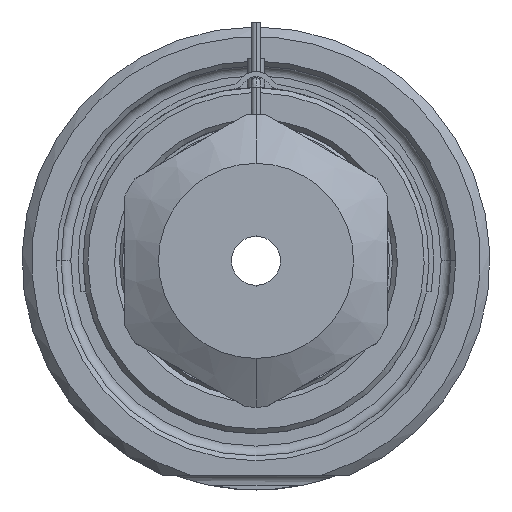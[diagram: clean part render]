
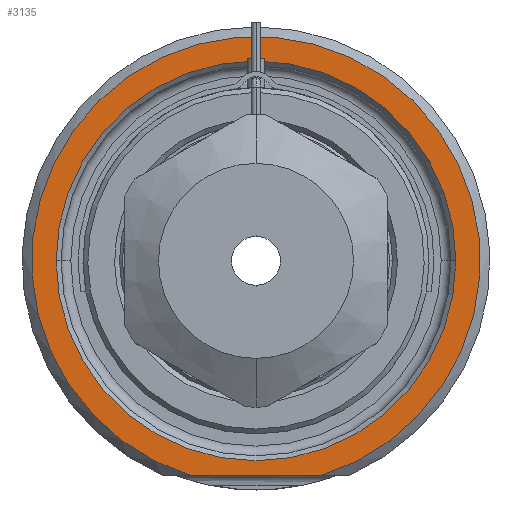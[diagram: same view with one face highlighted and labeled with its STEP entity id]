
A CAD part, front view. The second image highlights one B-rep face of the part: STEP entity #3135.
In plain terms, the highlighted planar face has unit normal (0, -1, 0).
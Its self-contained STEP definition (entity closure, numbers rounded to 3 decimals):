
#1=DIRECTION('',(1.,0.,0.));
#2=VECTOR('',#1,13.416);
#3=CARTESIAN_POINT('',(-6.708,0.,-22.));
#4=LINE('',#3,#2);
#5=CARTESIAN_POINT('',(0.,0.,0.));
#6=DIRECTION('',(0.,1.,0.));
#7=DIRECTION('',(-1.,0.,0.));
#8=AXIS2_PLACEMENT_3D('',#5,#6,#7);
#10=CARTESIAN_POINT('',(0.,0.,0.));
#11=DIRECTION('',(0.,1.,0.));
#12=DIRECTION('',(1.,0.,0.));
#13=AXIS2_PLACEMENT_3D('',#10,#11,#12);
#121=CARTESIAN_POINT('',(0.,0.,0.));
#122=DIRECTION('',(0.,-1.,0.));
#123=DIRECTION('',(0.292,0.,-0.957));
#124=AXIS2_PLACEMENT_3D('',#121,#122,#123);
#2589=CARTESIAN_POINT('',(-20.5,0.,0.));
#2590=CARTESIAN_POINT('',(20.5,0.,0.));
#2591=VERTEX_POINT('',#2589);
#2592=VERTEX_POINT('',#2590);
#2629=CARTESIAN_POINT('',(-6.708,0.,-22.));
#2630=CARTESIAN_POINT('',(6.708,0.,-22.));
#2631=VERTEX_POINT('',#2629);
#2632=VERTEX_POINT('',#2630);
#3118=CARTESIAN_POINT('',(0.,0.,0.));
#3119=DIRECTION('',(0.,-1.,0.));
#3120=DIRECTION('',(1.,0.,0.));
#3121=AXIS2_PLACEMENT_3D('',#3118,#3119,#3120);
#3122=PLANE('',#3121);
#3124=ORIENTED_EDGE('',*,*,#3123,.F.);
#3126=ORIENTED_EDGE('',*,*,#3125,.F.);
#3127=EDGE_LOOP('',(#3124,#3126));
#3128=FACE_OUTER_BOUND('',#3127,.F.);
#3130=ORIENTED_EDGE('',*,*,#3129,.F.);
#3132=ORIENTED_EDGE('',*,*,#3131,.F.);
#3133=EDGE_LOOP('',(#3130,#3132));
#3134=FACE_BOUND('',#3133,.F.);
#3135=ADVANCED_FACE('',(#3128,#3134),#3122,.T.);
#9=CIRCLE('',#8,20.5);
#14=CIRCLE('',#13,20.5);
#125=CIRCLE('',#124,23.);
#3123=EDGE_CURVE('',#2631,#2632,#4,.T.);
#3125=EDGE_CURVE('',#2632,#2631,#125,.T.);
#3129=EDGE_CURVE('',#2591,#2592,#9,.T.);
#3131=EDGE_CURVE('',#2592,#2591,#14,.T.);
